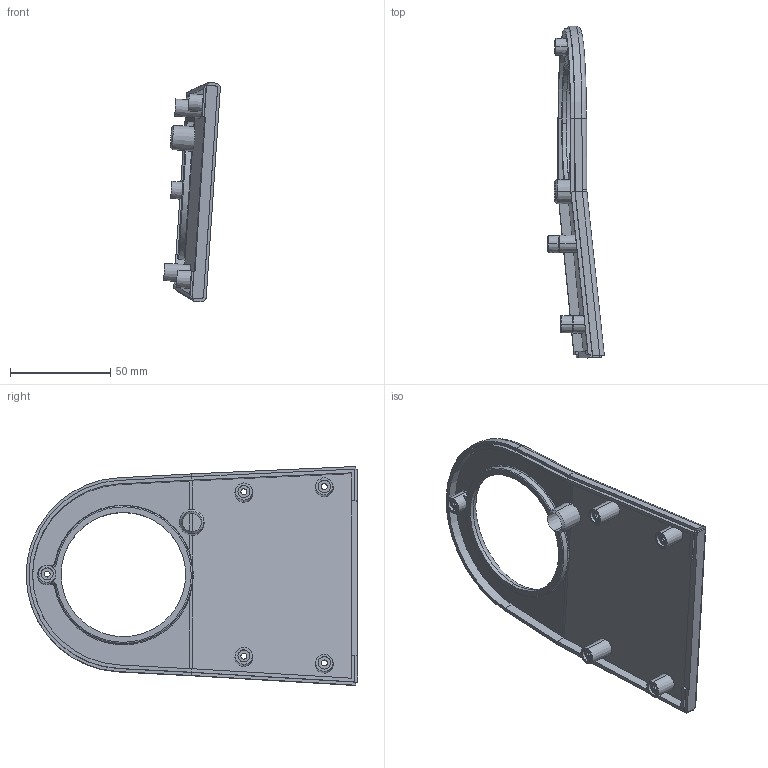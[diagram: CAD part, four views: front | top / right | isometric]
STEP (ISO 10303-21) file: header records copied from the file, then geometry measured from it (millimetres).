
FILE_DESCRIPTION (( 'STEP AP203' ), '1' );
FILE_NAME ('Plaque carter_2_Défaut_sldprt.STEP', '2018-04-06T14:28:53', ( '' ), ( '' ), 'SwSTEP 2.0', 'SolidWorks 2013', '' );
FILE_SCHEMA (( 'CONFIG_CONTROL_DESIGN' ));
Length unit declared in the file: millimetre
Products named in the file (1): Plaque carter_2_Défaut_sldprt
Bounding box: 28.19 x 165.15 x 109.04 mm (x, y, z)
Volume: 49546.7 mm3; surface area: 36063.9 mm2
Topology: 1 solids, 1 shells, 153 faces, 390 edges, 251 vertices
Faces by surface type: plane 53, cone 44, bspline 34, cylinder 22
Entity records: 16971 total; most frequent: CARTESIAN_POINT 13459, ORIENTED_EDGE 780, DIRECTION 609, EDGE_CURVE 390, VERTEX_POINT 251, AXIS2_PLACEMENT_3D 222, EDGE_LOOP 177, VECTOR 165
